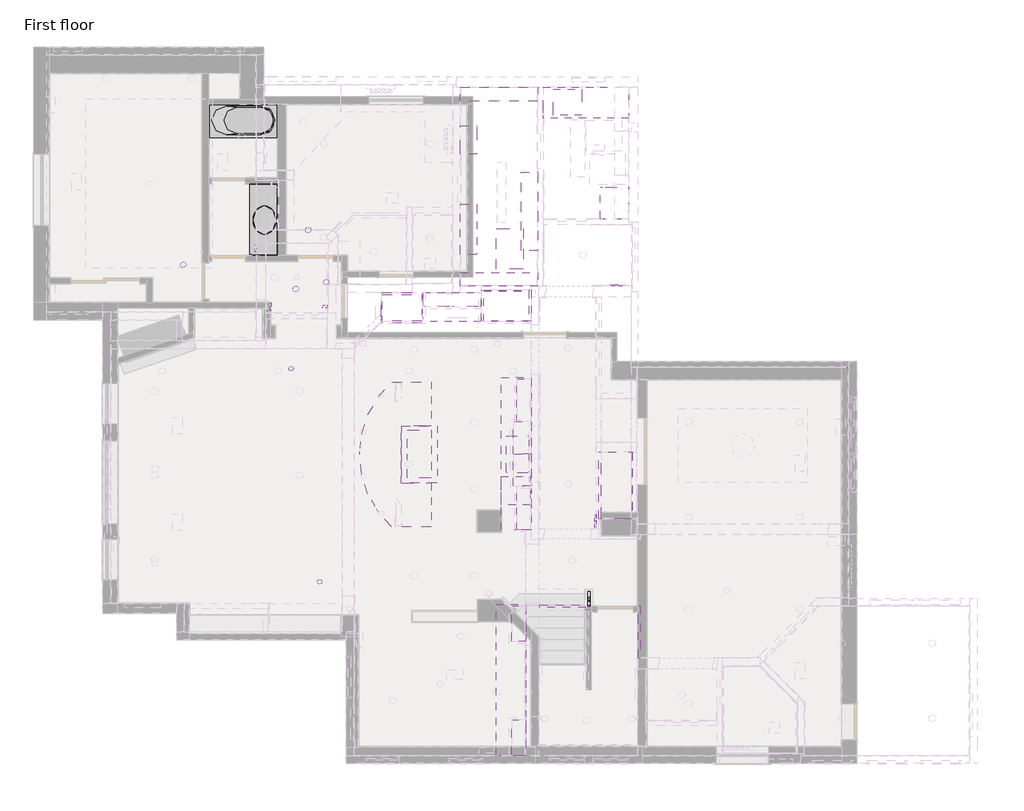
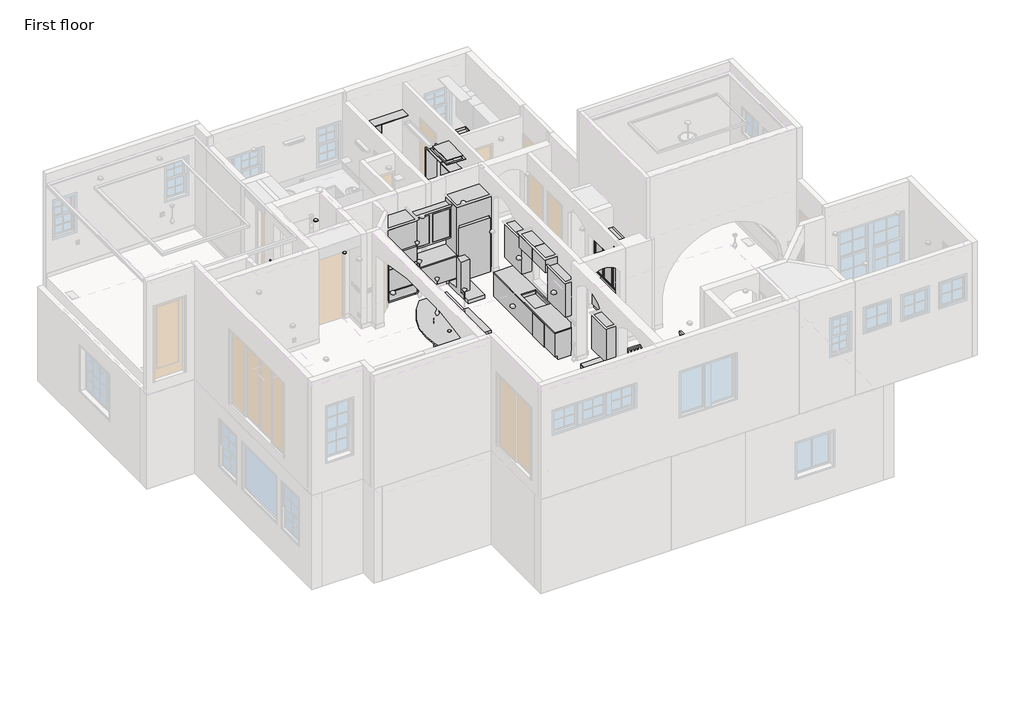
# One storey, part 11 of 14: 24 furniture elements, 22 proxies, 3 flow terminals, 3 railings.
"""IFC4 building model written with IfcOpenShell, lengths in millimetres."""

from ifc_helpers import new_model, si_unit, frame, origin, place, context, project, spatial, polyline, outline, extrude, faceted_brep, transform, mapped, element, save
from components import specialty_equipment_1_specialty_equipment_1_e45c8498, specialty_equipment_2_specialty_equipment_2_63d3368c, specialty_equipment_1_specialty_equipment_1_149a46b1, specialty_equipment_1_specialty_equipment_1_27041f3f, specialty_equipment_1_specialty_equipment_1_f51d1b89, specialty_equipment_1_specialty_equipment_1_b0d764d4, specialty_equipment_1_specialty_equipment_1_d450ff97, specialty_equipment_1_specialty_equipment_1_6d52e2c9, specialty_equipment_1_specialty_equipment_1_1134e4f5, specialty_equipment_1_specialty_equipment_1_de8e0843, specialty_equipment_1_specialty_equipment_1_e1410e21, specialty_equipment_1_specialty_equipment_1_22142bf9, specialty_equipment_2_specialty_equipment_2_f9cf8948, specialty_equipment_2_specialty_equipment_2_51517b87, specialty_equipment_2_specialty_equipment_2_9d198463, specialty_equipment_2_specialty_equipment_2_3676869b, specialty_equipment_4_specialty_equipment_4_47f9b433, specialty_equipment_4_specialty_equipment_4_565449f1, plumbing_fixtures_4_plumbing_fixtures_4_be4fb774, plumbing_fixtures_6_plumbing_fixtures_5_a5df739f, plumbing_fixtures_8_plumbing_fixtures_8_eef5b3e7, casework_1_casework_1_399aaf37, casework_10_casework_10_265339eb, casework_11_casework_11_e8552cba, casework_12_casework_12_64e967a0, casework_14_casework_14_4ba8a601, casework_15_casework_15_c3bc77f4, casework_16_casework_16_2de93c59, casework_18_casework_18_fa641dad, casework_3_casework_3_20c6afee, casework_5_casework_3_b1076f2b, casework_6_casework_6_d7503c27, casework_7_casework_7_b0f50ad1, casework_8_casework_8_5553da1a, casework_9_casework_9_88ae8665, casework_2_casework_2_e2b38130, casework_2_casework_2_7a8d8605, casework_2_casework_2_ce933aa9, casework_2_casework_2_f6c91c58, casework_4_casework_4_1af3687d, furniture_08fd158a, generic_models_26_generic_models_26_58412322, generic_models_27_generic_models_26_e044adbe

model = new_model("IFC4")

# Units and contexts
model_context = context("Model", 3, world=origin())
ifc_project = project(units=[si_unit("LENGTHUNIT", "METRE", prefix="MILLI")], contexts=[model_context])

# Site, building, storey
site = spatial("IfcSite", under=ifc_project)
building = spatial("IfcBuilding", under=site)
storey = spatial("IfcBuildingStorey", under=building, Name="First floor", Elevation=0.0)

# Proxies
placement = place(None, origin())
specialty_equipment_1_specialty_equipment_1_shape = specialty_equipment_1_specialty_equipment_1_e45c8498(model_context)
element("IfcBuildingElementProxy", 1, Name="Specialty Equipment 1 : Specialty Equipment 1", ObjectType="Specialty Equipment 1 : Specialty Equipment 1", at=placement, inside=storey, context=model_context, shape_type="MappedRepresentation", body=[
    mapped(specialty_equipment_1_specialty_equipment_1_shape, transform((0.0, 0.0, 0.0), x_axis=(1.0, 0.0, 0.0), y_axis=(0.0, 1.0, 0.0), z_axis=(0.0, 0.0, 1.0))),
])
specialty_equipment_2_specialty_equipment_2_shape = specialty_equipment_2_specialty_equipment_2_63d3368c(model_context)
element("IfcBuildingElementProxy", 2, Name="Specialty Equipment 2 : Specialty Equipment 2", ObjectType="Specialty Equipment 2 : Specialty Equipment 2", at=placement, inside=storey, context=model_context, shape_type="MappedRepresentation", body=[
    mapped(specialty_equipment_2_specialty_equipment_2_shape, transform((0.0, 0.0, 0.0), x_axis=(1.0, 0.0, 0.0), y_axis=(0.0, 1.0, 0.0), z_axis=(0.0, 0.0, 1.0))),
])
specialty_equipment_1_specialty_equipment_1_2_shape = specialty_equipment_1_specialty_equipment_1_149a46b1(model_context)
element("IfcBuildingElementProxy", 3, Name="Specialty Equipment_1 : Specialty Equipment_1", ObjectType="Specialty Equipment_1 : Specialty Equipment_1", at=placement, inside=storey, context=model_context, shape_type="MappedRepresentation", body=[
    mapped(specialty_equipment_1_specialty_equipment_1_2_shape, transform((-1625.6, 9740.9, 1295.4), x_axis=(0.0, 1.0, 0.0), y_axis=(-1.0, 0.0, 0.0), z_axis=(0.0, 0.0, 1.0))),
])
specialty_equipment_1_specialty_equipment_1_3_shape = specialty_equipment_1_specialty_equipment_1_27041f3f(model_context)
element("IfcBuildingElementProxy", 4, Name="Specialty Equipment_1 : Specialty Equipment_1", ObjectType="Specialty Equipment_1 : Specialty Equipment_1", at=placement, inside=storey, context=model_context, shape_type="MappedRepresentation", body=[
    mapped(specialty_equipment_1_specialty_equipment_1_3_shape, transform((1168.4, 6591.3, 3251.2), x_axis=(0.0, 1.0, 0.0), y_axis=(-1.0, 0.0, 0.0), z_axis=(0.0, 0.0, 1.0))),
])
specialty_equipment_1_specialty_equipment_1_4_shape = specialty_equipment_1_specialty_equipment_1_f51d1b89(model_context)
element("IfcBuildingElementProxy", 5, Name="Specialty Equipment_1 : Specialty Equipment_1", ObjectType="Specialty Equipment_1 : Specialty Equipment_1", at=placement, inside=storey, context=model_context, shape_type="MappedRepresentation", body=[
    mapped(specialty_equipment_1_specialty_equipment_1_4_shape, transform((-508.0, 9740.9, 2552.7), x_axis=(0.0, 1.0, 0.0), y_axis=(-1.0, 0.0, 0.0), z_axis=(0.0, 0.0, 1.0))),
])
specialty_equipment_1_specialty_equipment_1_5_shape = specialty_equipment_1_specialty_equipment_1_b0d764d4(model_context)
element("IfcBuildingElementProxy", 6, Name="Specialty Equipment_1 : Specialty Equipment_1", ObjectType="Specialty Equipment_1 : Specialty Equipment_1", at=placement, inside=storey, context=model_context, shape_type="MappedRepresentation", body=[
    mapped(specialty_equipment_1_specialty_equipment_1_5_shape, transform((5295.9, 5111.6447939, 4521.2), x_axis=(0.0, 1.0, 0.0), y_axis=(-1.0, 0.0, 0.0), z_axis=(0.0, 0.0, 1.0))),
])
specialty_equipment_1_specialty_equipment_1_6_shape = specialty_equipment_1_specialty_equipment_1_d450ff97(model_context)
element("IfcBuildingElementProxy", 7, Name="Specialty Equipment_1 : Specialty Equipment_1", ObjectType="Specialty Equipment_1 : Specialty Equipment_1", at=placement, inside=storey, context=model_context, shape_type="MappedRepresentation", body=[
    mapped(specialty_equipment_1_specialty_equipment_1_6_shape, transform((5295.9, 5232.2947939, 5816.6), x_axis=(0.0, 1.0, 0.0), y_axis=(-1.0, 0.0, 0.0), z_axis=(0.0, 0.0, 1.0))),
])
specialty_equipment_1_specialty_equipment_1_7_shape = specialty_equipment_1_specialty_equipment_1_6d52e2c9(model_context)
element("IfcBuildingElementProxy", 8, Name="Specialty Equipment_1 : Specialty Equipment_1", ObjectType="Specialty Equipment_1 : Specialty Equipment_1", at=placement, inside=storey, context=model_context, shape_type="MappedRepresentation", body=[
    mapped(specialty_equipment_1_specialty_equipment_1_7_shape, transform((5308.6, 5283.0947939, 6019.8), x_axis=(0.0, 1.0, 0.0), y_axis=(-1.0, 0.0, 0.0), z_axis=(0.0, 0.0, 1.0))),
])
specialty_equipment_1_specialty_equipment_1_8_shape = specialty_equipment_1_specialty_equipment_1_1134e4f5(model_context)
element("IfcBuildingElementProxy", 9, Name="Specialty Equipment_1 : Specialty Equipment_1", ObjectType="Specialty Equipment_1 : Specialty Equipment_1", at=placement, inside=storey, context=model_context, shape_type="MappedRepresentation", body=[
    mapped(specialty_equipment_1_specialty_equipment_1_8_shape, transform((-1949.45, 10985.5, 4572.0), x_axis=(0.0, 1.0, 0.0), y_axis=(-1.0, 0.0, 0.0), z_axis=(0.0, 0.0, 1.0))),
])
specialty_equipment_1_specialty_equipment_1_9_shape = specialty_equipment_1_specialty_equipment_1_de8e0843(model_context)
element("IfcBuildingElementProxy", 10, Name="Specialty Equipment_1 : Specialty Equipment_1", ObjectType="Specialty Equipment_1 : Specialty Equipment_1", at=placement, inside=storey, context=model_context, shape_type="MappedRepresentation", body=[
    mapped(specialty_equipment_1_specialty_equipment_1_9_shape, transform((5651.5, 10210.6947939, 4597.4), x_axis=(1.0, 0.0, 0.0), y_axis=(0.0, 1.0, 0.0), z_axis=(0.0, 0.0, 1.0))),
])
specialty_equipment_1_specialty_equipment_1_10_shape = specialty_equipment_1_specialty_equipment_1_e1410e21(model_context)
element("IfcBuildingElementProxy", 11, Name="Specialty Equipment_1 : Specialty Equipment_1", ObjectType="Specialty Equipment_1 : Specialty Equipment_1", at=placement, inside=storey, context=model_context, shape_type="MappedRepresentation", body=[
    mapped(specialty_equipment_1_specialty_equipment_1_10_shape, transform((5803.9, 10210.6947939, 4597.4), x_axis=(1.0, 0.0, 0.0), y_axis=(0.0, 1.0, 0.0), z_axis=(0.0, 0.0, 1.0))),
])
specialty_equipment_1_specialty_equipment_1_11_shape = specialty_equipment_1_specialty_equipment_1_22142bf9(model_context)
element("IfcBuildingElementProxy", 12, Name="Specialty Equipment_1 : Specialty Equipment_1", ObjectType="Specialty Equipment_1 : Specialty Equipment_1", at=placement, inside=storey, context=model_context, shape_type="MappedRepresentation", body=[
    mapped(specialty_equipment_1_specialty_equipment_1_11_shape, transform((3295.65, 5818.0822939, 3378.2), x_axis=(0.0, 1.0, 0.0), y_axis=(-1.0, 0.0, 0.0), z_axis=(0.0, 0.0, 1.0))),
])
specialty_equipment_2_specialty_equipment_2_2_shape = specialty_equipment_2_specialty_equipment_2_f9cf8948(model_context)
element("IfcBuildingElementProxy", 13, Name="Specialty Equipment_2 : Specialty Equipment_2", ObjectType="Specialty Equipment_2 : Specialty Equipment_2", at=placement, inside=storey, context=model_context, shape_type="MappedRepresentation", body=[
    mapped(specialty_equipment_2_specialty_equipment_2_2_shape, transform((1180.9972395, 10001.25, 3405.1875), x_axis=(1.0, 0.0, 0.0), y_axis=(0.0, 1.0, 0.0), z_axis=(0.0, 0.0, 1.0))),
])
specialty_equipment_2_specialty_equipment_2_3_shape = specialty_equipment_2_specialty_equipment_2_51517b87(model_context)
element("IfcBuildingElementProxy", 14, Name="Specialty Equipment_2 : Specialty Equipment_2", ObjectType="Specialty Equipment_2 : Specialty Equipment_2", at=placement, inside=storey, context=model_context, shape_type="MappedRepresentation", body=[
    mapped(specialty_equipment_2_specialty_equipment_2_3_shape, transform((1180.9972395, 10001.25, 3709.9875), x_axis=(1.0, 0.0, 0.0), y_axis=(0.0, 1.0, 0.0), z_axis=(0.0, 0.0, 1.0))),
])
specialty_equipment_2_specialty_equipment_2_4_shape = specialty_equipment_2_specialty_equipment_2_9d198463(model_context)
element("IfcBuildingElementProxy", 15, Name="Specialty Equipment_2 : Specialty Equipment_2", ObjectType="Specialty Equipment_2 : Specialty Equipment_2", at=placement, inside=storey, context=model_context, shape_type="MappedRepresentation", body=[
    mapped(specialty_equipment_2_specialty_equipment_2_4_shape, transform((1180.9972395, 10001.25, 4421.1875), x_axis=(1.0, 0.0, 0.0), y_axis=(0.0, 1.0, 0.0), z_axis=(0.0, 0.0, 1.0))),
])
specialty_equipment_2_specialty_equipment_2_5_shape = specialty_equipment_2_specialty_equipment_2_3676869b(model_context)
element("IfcBuildingElementProxy", 16, Name="Specialty Equipment_2 : Specialty Equipment_2", ObjectType="Specialty Equipment_2 : Specialty Equipment_2", at=placement, inside=storey, context=model_context, shape_type="MappedRepresentation", body=[
    mapped(specialty_equipment_2_specialty_equipment_2_5_shape, transform((3403.6, 10080.5197939, 3251.2), x_axis=(1.0, 0.0, 0.0), y_axis=(0.0, 1.0, 0.0), z_axis=(0.0, 0.0, 1.0))),
])
specialty_equipment_4_specialty_equipment_4_shape = specialty_equipment_4_specialty_equipment_4_47f9b433(model_context)
element("IfcBuildingElementProxy", 17, Name="Specialty Equipment_4 : Specialty Equipment_4", ObjectType="Specialty Equipment_4 : Specialty Equipment_4", at=placement, inside=storey, context=model_context, shape_type="MappedRepresentation", body=[
    mapped(specialty_equipment_4_specialty_equipment_4_shape, transform((-431.8, 10267.95, 2565.4), x_axis=(1.0, 0.0, 0.0), y_axis=(0.0, 1.0, 0.0), z_axis=(0.0, 0.0, 1.0))),
])
element("IfcBuildingElementProxy", 18, Name="Specialty Equipment_4 : Specialty Equipment_4", ObjectType="Specialty Equipment_4 : Specialty Equipment_4", at=placement, inside=storey, context=model_context, shape_type="MappedRepresentation", body=[
    mapped(specialty_equipment_4_specialty_equipment_4_shape, transform((-3479.8, 10642.6, 2565.4), x_axis=(1.0, 0.0, 0.0), y_axis=(0.0, 1.0, 0.0), z_axis=(0.0, 0.0, 1.0))),
])
element("IfcBuildingElementProxy", 19, Name="Specialty Equipment_4 : Specialty Equipment_4", ObjectType="Specialty Equipment_4 : Specialty Equipment_4", at=placement, inside=storey, context=model_context, shape_type="MappedRepresentation", body=[
    mapped(specialty_equipment_4_specialty_equipment_4_shape, transform((-819.15, 11379.2, 2565.4), x_axis=(1.0, 0.0, 0.0), y_axis=(0.0, 1.0, 0.0), z_axis=(0.0, 0.0, 1.0))),
])
element("IfcBuildingElementProxy", 20, Name="Specialty Equipment_4 : Specialty Equipment_4", ObjectType="Specialty Equipment_4 : Specialty Equipment_4", at=placement, inside=storey, context=model_context, shape_type="MappedRepresentation", body=[
    mapped(specialty_equipment_4_specialty_equipment_4_shape, transform((-1079.5, 10121.9, 6248.4), x_axis=(1.0, 0.0, 0.0), y_axis=(0.0, 1.0, 0.0), z_axis=(0.0, 0.0, 1.0))),
])
specialty_equipment_4_specialty_equipment_4_2_shape = specialty_equipment_4_specialty_equipment_4_565449f1(model_context)
element("IfcBuildingElementProxy", 21, Name="Specialty Equipment_4 : Specialty Equipment_4", ObjectType="Specialty Equipment_4 : Specialty Equipment_4", at=placement, inside=storey, context=model_context, shape_type="MappedRepresentation", body=[
    mapped(specialty_equipment_4_specialty_equipment_4_2_shape, transform((-571.5, 3873.5, 6261.1), x_axis=(1.0, 0.0, 0.0), y_axis=(0.0, 1.0, 0.0), z_axis=(0.0, 0.0, 1.0))),
])
element("IfcBuildingElementProxy", 22, Name="Specialty Equipment_4 : Specialty Equipment_4", ObjectType="Specialty Equipment_4 : Specialty Equipment_4", at=placement, inside=storey, context=model_context, shape_type="MappedRepresentation", body=[
    mapped(specialty_equipment_4_specialty_equipment_4_2_shape, transform((-1181.1, 8420.1, 6261.1), x_axis=(1.0, 0.0, 0.0), y_axis=(0.0, 1.0, 0.0), z_axis=(0.0, 0.0, 1.0))),
])

# Flow terminals
plumbing_fixtures_4_plumbing_fixtures_4_shape = plumbing_fixtures_4_plumbing_fixtures_4_be4fb774(model_context)
element("IfcFlowTerminal", 23, ObjectType="Plumbing Fixtures 4 : Plumbing Fixtures 4", at=placement, inside=storey, context=model_context, shape_type="MappedRepresentation", body=[
    mapped(plumbing_fixtures_4_plumbing_fixtures_4_shape, transform((0.0, 0.0, 0.0), x_axis=(1.0, 0.0, 0.0), y_axis=(0.0, 1.0, 0.0), z_axis=(0.0, 0.0, 1.0))),
])
plumbing_fixtures_6_plumbing_fixtures_5_shape = plumbing_fixtures_6_plumbing_fixtures_5_a5df739f(model_context)
element("IfcFlowTerminal", 24, ObjectType="Plumbing Fixtures 6 : Plumbing Fixtures 5", at=placement, inside=storey, context=model_context, shape_type="MappedRepresentation", body=[
    mapped(plumbing_fixtures_6_plumbing_fixtures_5_shape, transform((0.0, 0.0, 0.0), x_axis=(1.0, 0.0, 0.0), y_axis=(0.0, 1.0, 0.0), z_axis=(0.0, 0.0, 1.0))),
])
plumbing_fixtures_8_plumbing_fixtures_8_shape = plumbing_fixtures_8_plumbing_fixtures_8_eef5b3e7(model_context)
element("IfcFlowTerminal", 25, ObjectType="Plumbing Fixtures 8 : Plumbing Fixtures 8", at=placement, inside=storey, context=model_context, shape_type="MappedRepresentation", body=[
    mapped(plumbing_fixtures_8_plumbing_fixtures_8_shape, transform((0.0, 0.0, 0.0), x_axis=(1.0, 0.0, 0.0), y_axis=(0.0, 1.0, 0.0), z_axis=(0.0, 0.0, 1.0))),
])

# Furniture
casework_1_casework_1_shape = casework_1_casework_1_399aaf37(model_context)
element("IfcFurniture", 26, ObjectType="Casework 1 : Casework 1", at=placement, inside=storey, context=model_context, shape_type="MappedRepresentation", body=[
    mapped(casework_1_casework_1_shape, transform((0.0, 0.0, 0.0), x_axis=(1.0, 0.0, 0.0), y_axis=(0.0, 1.0, 0.0), z_axis=(0.0, 0.0, 1.0))),
])
casework_10_casework_10_shape = casework_10_casework_10_265339eb(model_context)
element("IfcFurniture", 27, ObjectType="Casework 10 : Casework 10", at=placement, inside=storey, context=model_context, shape_type="MappedRepresentation", body=[
    mapped(casework_10_casework_10_shape, transform((0.0, 0.0, 0.0), x_axis=(1.0, 0.0, 0.0), y_axis=(0.0, 1.0, 0.0), z_axis=(0.0, 0.0, 1.0))),
])
casework_11_casework_11_shape = casework_11_casework_11_e8552cba(model_context)
element("IfcFurniture", 28, ObjectType="Casework 11 : Casework 11", at=placement, inside=storey, context=model_context, shape_type="MappedRepresentation", body=[
    mapped(casework_11_casework_11_shape, transform((0.0, 0.0, 0.0), x_axis=(1.0, 0.0, 0.0), y_axis=(0.0, 1.0, 0.0), z_axis=(0.0, 0.0, 1.0))),
])
casework_12_casework_12_shape = casework_12_casework_12_64e967a0(model_context)
element("IfcFurniture", 29, ObjectType="Casework 12 : Casework 12", at=placement, inside=storey, context=model_context, shape_type="MappedRepresentation", body=[
    mapped(casework_12_casework_12_shape, transform((0.0, 0.0, 0.0), x_axis=(1.0, 0.0, 0.0), y_axis=(0.0, 1.0, 0.0), z_axis=(0.0, 0.0, 1.0))),
])
casework_14_casework_14_shape = casework_14_casework_14_4ba8a601(model_context)
element("IfcFurniture", 30, ObjectType="Casework 14 : Casework 14", at=placement, inside=storey, context=model_context, shape_type="MappedRepresentation", body=[
    mapped(casework_14_casework_14_shape, transform((0.0, 0.0, 0.0), x_axis=(1.0, 0.0, 0.0), y_axis=(0.0, 1.0, 0.0), z_axis=(0.0, 0.0, 1.0))),
])
casework_15_casework_15_shape = casework_15_casework_15_c3bc77f4(model_context)
element("IfcFurniture", 31, ObjectType="Casework 15 : Casework 15", at=placement, inside=storey, context=model_context, shape_type="MappedRepresentation", body=[
    mapped(casework_15_casework_15_shape, transform((0.0, 0.0, 0.0), x_axis=(1.0, 0.0, 0.0), y_axis=(0.0, 1.0, 0.0), z_axis=(0.0, 0.0, 1.0))),
])
casework_16_casework_16_shape = casework_16_casework_16_2de93c59(model_context)
element("IfcFurniture", 32, ObjectType="Casework 16 : Casework 16", at=placement, inside=storey, context=model_context, shape_type="MappedRepresentation", body=[
    mapped(casework_16_casework_16_shape, transform((0.0, 0.0, 0.0), x_axis=(1.0, 0.0, 0.0), y_axis=(0.0, 1.0, 0.0), z_axis=(0.0, 0.0, 1.0))),
])
casework_18_casework_18_shape = casework_18_casework_18_fa641dad(model_context)
element("IfcFurniture", 33, ObjectType="Casework 18 : Casework 18", at=placement, inside=storey, context=model_context, shape_type="MappedRepresentation", body=[
    mapped(casework_18_casework_18_shape, transform((0.0, 0.0, 0.0), x_axis=(1.0, 0.0, 0.0), y_axis=(0.0, 1.0, 0.0), z_axis=(0.0, 0.0, 1.0))),
])
casework_3_casework_3_shape = casework_3_casework_3_20c6afee(model_context)
element("IfcFurniture", 34, ObjectType="Casework 3 : Casework 3", at=placement, inside=storey, context=model_context, shape_type="MappedRepresentation", body=[
    mapped(casework_3_casework_3_shape, transform((0.0, 0.0, 0.0), x_axis=(1.0, 0.0, 0.0), y_axis=(0.0, 1.0, 0.0), z_axis=(0.0, 0.0, 1.0))),
])
casework_5_casework_3_shape = casework_5_casework_3_b1076f2b(model_context)
element("IfcFurniture", 35, ObjectType="Casework 5 : Casework 3", at=placement, inside=storey, context=model_context, shape_type="MappedRepresentation", body=[
    mapped(casework_5_casework_3_shape, transform((0.0, 0.0, 0.0), x_axis=(1.0, 0.0, 0.0), y_axis=(0.0, 1.0, 0.0), z_axis=(0.0, 0.0, 1.0))),
])
casework_6_casework_6_shape = casework_6_casework_6_d7503c27(model_context)
element("IfcFurniture", 36, ObjectType="Casework 6 : Casework 6", at=placement, inside=storey, context=model_context, shape_type="MappedRepresentation", body=[
    mapped(casework_6_casework_6_shape, transform((0.0, 0.0, 0.0), x_axis=(1.0, 0.0, 0.0), y_axis=(0.0, 1.0, 0.0), z_axis=(0.0, 0.0, 1.0))),
])
casework_7_casework_7_shape = casework_7_casework_7_b0f50ad1(model_context)
element("IfcFurniture", 37, ObjectType="Casework 7 : Casework 7", at=placement, inside=storey, context=model_context, shape_type="MappedRepresentation", body=[
    mapped(casework_7_casework_7_shape, transform((0.0, 0.0, 0.0), x_axis=(1.0, 0.0, 0.0), y_axis=(0.0, 1.0, 0.0), z_axis=(0.0, 0.0, 1.0))),
])
casework_8_casework_8_shape = casework_8_casework_8_5553da1a(model_context)
element("IfcFurniture", 38, ObjectType="Casework 8 : Casework 8", at=placement, inside=storey, context=model_context, shape_type="MappedRepresentation", body=[
    mapped(casework_8_casework_8_shape, transform((0.0, 0.0, 0.0), x_axis=(1.0, 0.0, 0.0), y_axis=(0.0, 1.0, 0.0), z_axis=(0.0, 0.0, 1.0))),
])
casework_9_casework_9_shape = casework_9_casework_9_88ae8665(model_context)
element("IfcFurniture", 39, ObjectType="Casework 9 : Casework 9", at=placement, inside=storey, context=model_context, shape_type="MappedRepresentation", body=[
    mapped(casework_9_casework_9_shape, transform((0.0, 0.0, 0.0), x_axis=(1.0, 0.0, 0.0), y_axis=(0.0, 1.0, 0.0), z_axis=(0.0, 0.0, 1.0))),
])
casework_2_casework_2_shape = casework_2_casework_2_e2b38130(model_context)
element("IfcFurniture", 40, ObjectType="Casework_2 : Casework_2", at=placement, inside=storey, context=model_context, shape_type="MappedRepresentation", body=[
    mapped(casework_2_casework_2_shape, transform((3822.7, 2984.3947939, 4546.6), x_axis=(0.0, 1.0, 0.0), y_axis=(-1.0, 0.0, 0.0), z_axis=(0.0, 0.0, 1.0))),
])
element("IfcFurniture", 41, ObjectType="Casework_2 : Casework_2", at=placement, inside=storey, context=model_context, shape_type="MappedRepresentation", body=[
    mapped(casework_2_casework_2_shape, transform((3822.7, 546.1, 4546.6), x_axis=(0.0, 1.0, 0.0), y_axis=(-1.0, 0.0, 0.0), z_axis=(0.0, 0.0, 1.0))),
])
casework_2_casework_2_2_shape = casework_2_casework_2_7a8d8605(model_context)
element("IfcFurniture", 42, ObjectType="Casework_2 : Casework_2", at=placement, inside=storey, context=model_context, shape_type="MappedRepresentation", body=[
    mapped(casework_2_casework_2_2_shape, transform((3937.0, 7746.8947939, 4546.6), x_axis=(0.0, 1.0, 0.0), y_axis=(-1.0, 0.0, 0.0), z_axis=(0.0, 0.0, 1.0))),
])
casework_2_casework_2_3_shape = casework_2_casework_2_ce933aa9(model_context)
element("IfcFurniture", 43, ObjectType="Casework_2 : Casework_2", at=placement, inside=storey, context=model_context, shape_type="MappedRepresentation", body=[
    mapped(casework_2_casework_2_3_shape, transform((3937.0, 6946.7947939, 5461.0), x_axis=(0.0, 1.0, 0.0), y_axis=(-1.0, 0.0, 0.0), z_axis=(0.0, 0.0, 1.0))),
])
element("IfcFurniture", 44, ObjectType="Casework_2 : Casework_2", at=placement, inside=storey, context=model_context, shape_type="MappedRepresentation", body=[
    mapped(casework_2_casework_2_3_shape, transform((3937.0, 6260.9947939, 5461.0), x_axis=(0.0, 1.0, 0.0), y_axis=(-1.0, 0.0, 0.0), z_axis=(0.0, 0.0, 1.0))),
])
casework_2_casework_2_4_shape = casework_2_casework_2_f6c91c58(model_context)
element("IfcFurniture", 45, ObjectType="Casework_2 : Casework_2", at=placement, inside=storey, context=model_context, shape_type="MappedRepresentation", body=[
    mapped(casework_2_casework_2_4_shape, transform((3937.0, 5451.3697939, 4546.6), x_axis=(0.0, 1.0, 0.0), y_axis=(-1.0, 0.0, 0.0), z_axis=(0.0, 0.0, 1.0))),
])
casework_4_casework_4_shape = casework_4_casework_4_1af3687d(model_context)
element("IfcFurniture", 46, ObjectType="Casework_4 : Casework_4", at=placement, inside=storey, context=model_context, shape_type="MappedRepresentation", body=[
    mapped(casework_4_casework_4_shape, transform((2247.8468488, 10045.7, 4521.2), x_axis=(-1.0, 0.0, 0.0), y_axis=(0.0, -1.0, 0.0), z_axis=(0.0, 0.0, 1.0))),
])
furniture_shape = furniture_08fd158a(model_context)
element("IfcFurniture", 47, ObjectType="Face Based Case work : 2'-6\" X 1'-7\"", at=placement, inside=storey, context=model_context, shape_type="MappedRepresentation", body=[
    mapped(furniture_shape, transform((3479.8, 10972.6947939, 6299.2), x_axis=(-1.0, 0.0, 0.0), y_axis=(0.0, 1.0, 0.0), z_axis=(0.0, 0.0, -1.0))),
])
generic_models_26_generic_models_26_shape = generic_models_26_generic_models_26_58412322(model_context)
element("IfcFurniture", 48, ObjectType="Generic Models 26 : Generic Models 26", at=placement, inside=storey, context=model_context, shape_type="MappedRepresentation", body=[
    mapped(generic_models_26_generic_models_26_shape, transform((0.0, 0.0, 0.0), x_axis=(1.0, 0.0, 0.0), y_axis=(0.0, 1.0, 0.0), z_axis=(0.0, 0.0, 1.0))),
])
generic_models_27_generic_models_26_shape = generic_models_27_generic_models_26_e044adbe(model_context)
element("IfcFurniture", 49, ObjectType="Generic Models 27 : Generic Models 26", at=placement, inside=storey, context=model_context, shape_type="MappedRepresentation", body=[
    mapped(generic_models_27_generic_models_26_shape, transform((0.0, 0.0, 0.0), x_axis=(1.0, 0.0, 0.0), y_axis=(0.0, 1.0, 0.0), z_axis=(0.0, 0.0, 1.0))),
])

# Railings
element("IfcRailing", 50, ObjectType="Railing_1.3 2", at=placement, inside=storey, context=model_context, shape_type="SweptSolid", body=[
    extrude(outline(polyline([(6214.9, 3366.0059526), (6265.7, 3366.0059526), (6265.7, 2247.9), (6214.9, 2247.9), (6214.9, 3366.0059526)])), frame((0.0, 0.0, 4114.8), z_axis=(0.0, 0.0, 1.0), x_axis=(1.0, 0.0, 0.0)), (0.0, 0.0, 1.0), 50.8),
    extrude(outline(polyline([(6214.9, 3366.0059526), (6265.7, 3366.0059526), (6265.7, 2247.9), (6214.9, 2247.9), (6214.9, 3366.0059526)])), frame((0.0, 0.0, 3251.2), z_axis=(0.0, 0.0, 1.0), x_axis=(1.0, 0.0, 0.0)), (0.0, 0.0, 1.0), 50.8),
    extrude(outline(polyline([(6230.775, 2257.9309526), (6249.825, 2257.9309526), (6249.825, 2238.8809526), (6230.775, 2238.8809526), (6230.775, 2257.9309526)])), frame((0.0, 0.0, 3302.0), z_axis=(0.0, 0.0, 1.0), x_axis=(1.0, 0.0, 0.0)), (0.0, 0.0, 1.0), 812.8),
    extrude(outline(polyline([(6230.775, 2359.5309526), (6249.825, 2359.5309526), (6249.825, 2340.4809526), (6230.775, 2340.4809526), (6230.775, 2359.5309526)])), frame((0.0, 0.0, 3302.0), z_axis=(0.0, 0.0, 1.0), x_axis=(1.0, 0.0, 0.0)), (0.0, 0.0, 1.0), 812.8),
    extrude(outline(polyline([(6230.775, 2461.1309526), (6249.825, 2461.1309526), (6249.825, 2442.0809526), (6230.775, 2442.0809526), (6230.775, 2461.1309526)])), frame((0.0, 0.0, 3302.0), z_axis=(0.0, 0.0, 1.0), x_axis=(1.0, 0.0, 0.0)), (0.0, 0.0, 1.0), 812.8),
    extrude(outline(polyline([(6230.775, 2562.7309526), (6249.825, 2562.7309526), (6249.825, 2543.6809526), (6230.775, 2543.6809526), (6230.775, 2562.7309526)])), frame((0.0, 0.0, 3302.0), z_axis=(0.0, 0.0, 1.0), x_axis=(1.0, 0.0, 0.0)), (0.0, 0.0, 1.0), 812.8),
    extrude(outline(polyline([(6230.775, 2664.3309526), (6249.825, 2664.3309526), (6249.825, 2645.2809526), (6230.775, 2645.2809526), (6230.775, 2664.3309526)])), frame((0.0, 0.0, 3302.0), z_axis=(0.0, 0.0, 1.0), x_axis=(1.0, 0.0, 0.0)), (0.0, 0.0, 1.0), 812.8),
    extrude(outline(polyline([(6230.775, 2765.9309526), (6249.825, 2765.9309526), (6249.825, 2746.8809526), (6230.775, 2746.8809526), (6230.775, 2765.9309526)])), frame((0.0, 0.0, 3302.0), z_axis=(0.0, 0.0, 1.0), x_axis=(1.0, 0.0, 0.0)), (0.0, 0.0, 1.0), 812.8),
    extrude(outline(polyline([(6230.775, 2867.5309526), (6249.825, 2867.5309526), (6249.825, 2848.4809526), (6230.775, 2848.4809526), (6230.775, 2867.5309526)])), frame((0.0, 0.0, 3302.0), z_axis=(0.0, 0.0, 1.0), x_axis=(1.0, 0.0, 0.0)), (0.0, 0.0, 1.0), 812.8),
    extrude(outline(polyline([(6230.775, 2969.1309526), (6249.825, 2969.1309526), (6249.825, 2950.0809526), (6230.775, 2950.0809526), (6230.775, 2969.1309526)])), frame((0.0, 0.0, 3302.0), z_axis=(0.0, 0.0, 1.0), x_axis=(1.0, 0.0, 0.0)), (0.0, 0.0, 1.0), 812.8),
    extrude(outline(polyline([(6230.775, 3070.7309526), (6249.825, 3070.7309526), (6249.825, 3051.6809526), (6230.775, 3051.6809526), (6230.775, 3070.7309526)])), frame((0.0, 0.0, 3302.0), z_axis=(0.0, 0.0, 1.0), x_axis=(1.0, 0.0, 0.0)), (0.0, 0.0, 1.0), 812.8),
    extrude(outline(polyline([(6230.775, 3172.3309526), (6249.825, 3172.3309526), (6249.825, 3153.2809526), (6230.775, 3153.2809526), (6230.775, 3172.3309526)])), frame((0.0, 0.0, 3302.0), z_axis=(0.0, 0.0, 1.0), x_axis=(1.0, 0.0, 0.0)), (0.0, 0.0, 1.0), 812.8),
    extrude(outline(polyline([(6230.775, 3273.9309526), (6249.825, 3273.9309526), (6249.825, 3254.8809526), (6230.775, 3254.8809526), (6230.775, 3273.9309526)])), frame((0.0, 0.0, 3302.0), z_axis=(0.0, 0.0, 1.0), x_axis=(1.0, 0.0, 0.0)), (0.0, 0.0, 1.0), 812.8),
    extrude(outline(polyline([(6230.775, 2266.95), (6249.825, 2266.95), (6249.825, 2247.9), (6230.775, 2247.9), (6230.775, 2266.95)])), frame((0.0, 0.0, 3302.0), z_axis=(0.0, 0.0, 1.0), x_axis=(1.0, 0.0, 0.0)), (0.0, 0.0, 1.0), 812.8),
    extrude(outline(polyline([(6230.775, 3366.0059526), (6249.825, 3366.0059526), (6249.825, 3346.9559526), (6230.775, 3346.9559526), (6230.775, 3366.0059526)])), frame((0.0, 0.0, 3302.0), z_axis=(0.0, 0.0, 1.0), x_axis=(1.0, 0.0, 0.0)), (0.0, 0.0, 1.0), 812.8),
])
element("IfcRailing", 51, ObjectType="Railing_1.3 2", at=placement, inside=storey, context=model_context, shape_type="SolidModel", body=[
    faceted_brep([(4114.8, 3378.2, 4165.6), (4114.8, 3378.2, 4114.8), (4114.8, 3327.4, 4114.8), (4114.8, 3327.4, 4165.6), (5149.85, 3264.8217932, 4165.6), (5099.05, 3264.8217932, 4165.6), (5099.05, 3264.8217932, 4114.8), (5149.85, 3264.8217932, 4114.8), (5149.85, 3378.2, 4165.6), (5149.85, 3378.2, 4114.8), (5099.05, 3327.4, 4114.8), (5099.05, 3327.4, 4165.6)], [[[0, 1, 2, 3]], [[4, 5, 6, 7]], [[1, 0, 8, 9]], [[2, 1, 9, 10]], [[3, 2, 10, 11]], [[0, 3, 11, 8]], [[9, 8, 4, 7]], [[10, 9, 7, 6]], [[11, 10, 6, 5]], [[8, 11, 5, 4]]]),
    faceted_brep([(4114.8, 3327.4, 3302.0), (4114.8, 3378.2, 3302.0), (4114.8, 3378.2, 3251.2), (4114.8, 3327.4, 3251.2), (5099.05, 3264.8217932, 3302.0), (5099.05, 3264.8217932, 3251.2), (5149.85, 3264.8217932, 3251.2), (5149.85, 3264.8217932, 3302.0), (5099.05, 3327.4, 3302.0), (5149.85, 3378.2, 3302.0), (5149.85, 3378.2, 3251.2), (5099.05, 3327.4, 3251.2)], [[[0, 1, 2, 3]], [[4, 5, 6, 7]], [[1, 0, 8, 9]], [[2, 1, 9, 10]], [[3, 2, 10, 11]], [[0, 3, 11, 8]], [[9, 8, 4, 7]], [[10, 9, 7, 6]], [[11, 10, 6, 5]], [[8, 11, 5, 4]]]),
    extrude(outline(polyline([(5019.675, 3343.275), (5019.675, 3362.325), (5038.725, 3362.325), (5038.725, 3343.275), (5019.675, 3343.275)])), frame((0.0, 0.0, 3302.0), z_axis=(0.0, 0.0, 1.0), x_axis=(1.0, 0.0, 0.0)), (0.0, 0.0, 1.0), 812.8),
    extrude(outline(polyline([(4918.075, 3343.275), (4918.075, 3362.325), (4937.125, 3362.325), (4937.125, 3343.275), (4918.075, 3343.275)])), frame((0.0, 0.0, 3302.0), z_axis=(0.0, 0.0, 1.0), x_axis=(1.0, 0.0, 0.0)), (0.0, 0.0, 1.0), 812.8),
    extrude(outline(polyline([(4816.475, 3343.275), (4816.475, 3362.325), (4835.525, 3362.325), (4835.525, 3343.275), (4816.475, 3343.275)])), frame((0.0, 0.0, 3302.0), z_axis=(0.0, 0.0, 1.0), x_axis=(1.0, 0.0, 0.0)), (0.0, 0.0, 1.0), 812.8),
    extrude(outline(polyline([(4714.875, 3343.275), (4714.875, 3362.325), (4733.925, 3362.325), (4733.925, 3343.275), (4714.875, 3343.275)])), frame((0.0, 0.0, 3302.0), z_axis=(0.0, 0.0, 1.0), x_axis=(1.0, 0.0, 0.0)), (0.0, 0.0, 1.0), 812.8),
    extrude(outline(polyline([(4613.275, 3343.275), (4613.275, 3362.325), (4632.325, 3362.325), (4632.325, 3343.275), (4613.275, 3343.275)])), frame((0.0, 0.0, 3302.0), z_axis=(0.0, 0.0, 1.0), x_axis=(1.0, 0.0, 0.0)), (0.0, 0.0, 1.0), 812.8),
    extrude(outline(polyline([(4511.675, 3343.275), (4511.675, 3362.325), (4530.725, 3362.325), (4530.725, 3343.275), (4511.675, 3343.275)])), frame((0.0, 0.0, 3302.0), z_axis=(0.0, 0.0, 1.0), x_axis=(1.0, 0.0, 0.0)), (0.0, 0.0, 1.0), 812.8),
    extrude(outline(polyline([(4410.075, 3343.275), (4410.075, 3362.325), (4429.125, 3362.325), (4429.125, 3343.275), (4410.075, 3343.275)])), frame((0.0, 0.0, 3302.0), z_axis=(0.0, 0.0, 1.0), x_axis=(1.0, 0.0, 0.0)), (0.0, 0.0, 1.0), 812.8),
    extrude(outline(polyline([(4308.475, 3343.275), (4308.475, 3362.325), (4327.525, 3362.325), (4327.525, 3343.275), (4308.475, 3343.275)])), frame((0.0, 0.0, 3302.0), z_axis=(0.0, 0.0, 1.0), x_axis=(1.0, 0.0, 0.0)), (0.0, 0.0, 1.0), 812.8),
    extrude(outline(polyline([(4206.875, 3343.275), (4206.875, 3362.325), (4225.925, 3362.325), (4225.925, 3343.275), (4206.875, 3343.275)])), frame((0.0, 0.0, 3302.0), z_axis=(0.0, 0.0, 1.0), x_axis=(1.0, 0.0, 0.0)), (0.0, 0.0, 1.0), 812.8),
    extrude(outline(polyline([(5114.925, 3343.275), (5114.925, 3362.325), (5133.975, 3362.325), (5133.975, 3343.275), (5114.925, 3343.275)])), frame((0.0, 0.0, 3302.0), z_axis=(0.0, 0.0, 1.0), x_axis=(1.0, 0.0, 0.0)), (0.0, 0.0, 1.0), 812.8),
    extrude(outline(polyline([(5114.925, 3283.8717932), (5133.975, 3283.8717932), (5133.975, 3264.8217932), (5114.925, 3264.8217932), (5114.925, 3283.8717932)])), frame((0.0, 0.0, 3302.0), z_axis=(0.0, 0.0, 1.0), x_axis=(1.0, 0.0, 0.0)), (0.0, 0.0, 1.0), 812.8),
    extrude(outline(polyline([(4114.8, 3343.275), (4114.8, 3362.325), (4133.85, 3362.325), (4133.85, 3343.275), (4114.8, 3343.275)])), frame((0.0, 0.0, 3302.0), z_axis=(0.0, 0.0, 1.0), x_axis=(1.0, 0.0, 0.0)), (0.0, 0.0, 1.0), 812.8),
])
element("IfcRailing", 52, ObjectType="Railing_1.3 3", at=placement, inside=storey, context=model_context, shape_type="SweptSolid", body=[
    extrude(outline(polyline([(3670.1751833, 1111.6236546), (3670.1751833, 1046.98321), (3352.8, 1296.7089265), (3352.8, 1361.3493711), (3670.1751833, 1111.6236546)])), frame((5146.6749879, 0.0, 0.0), z_axis=(1.0, 0.0, 0.0), x_axis=(0.0, 1.0, 0.0)), (0.0, 0.0, 1.0), 50.8),
    extrude(outline(polyline([(3670.1751833, 298.8236546), (3670.1751833, 234.18321), (3352.8, 483.9089265), (3352.8, 548.5493711), (3670.1751833, 298.8236546)])), frame((5146.6749879, 0.0, 0.0), z_axis=(1.0, 0.0, 0.0), x_axis=(0.0, 1.0, 0.0)), (0.0, 0.0, 1.0), 50.8),
    extrude(outline(polyline([(3355.8501833, 1294.3088989), (3374.9001833, 1279.3194632), (3374.9001833, 531.1599078), (3355.8501833, 546.1493434), (3355.8501833, 1294.3088989)])), frame((5162.5499879, 0.0, 0.0), z_axis=(1.0, 0.0, 0.0), x_axis=(0.0, 1.0, 0.0)), (0.0, 0.0, 1.0), 19.05),
    extrude(outline(polyline([(3457.4501833, 1214.3652419), (3476.5001833, 1199.3758062), (3476.5001833, 451.2162508), (3457.4501833, 466.2056864), (3457.4501833, 1214.3652419)])), frame((5162.5499879, 0.0, 0.0), z_axis=(1.0, 0.0, 0.0), x_axis=(0.0, 1.0, 0.0)), (0.0, 0.0, 1.0), 19.05),
    extrude(outline(polyline([(3559.0501833, 1134.4215849), (3578.1001833, 1119.4321492), (3578.1001833, 371.2725938), (3559.0501833, 386.2620294), (3559.0501833, 1134.4215849)])), frame((5162.5499879, 0.0, 0.0), z_axis=(1.0, 0.0, 0.0), x_axis=(0.0, 1.0, 0.0)), (0.0, 0.0, 1.0), 19.05),
    extrude(outline(polyline([(3352.8, 1296.7089265), (3371.85, 1281.7194908), (3371.85, 388.6546532), (3352.8, 388.6546532), (3352.8, 1296.7089265)])), frame((5162.5499879, 0.0, 0.0), z_axis=(1.0, 0.0, 0.0), x_axis=(0.0, 1.0, 0.0)), (0.0, 0.0, 1.0), 19.05),
    extrude(outline(polyline([(3651.1251833, 1061.9726457), (3670.1751833, 1046.98321), (3670.1751833, 153.9183724), (3651.1251833, 153.9183724), (3651.1251833, 1061.9726457)])), frame((5162.5499879, 0.0, 0.0), z_axis=(1.0, 0.0, 0.0), x_axis=(0.0, 1.0, 0.0)), (0.0, 0.0, 1.0), 19.05),
])

save(model, "model.ifc")
